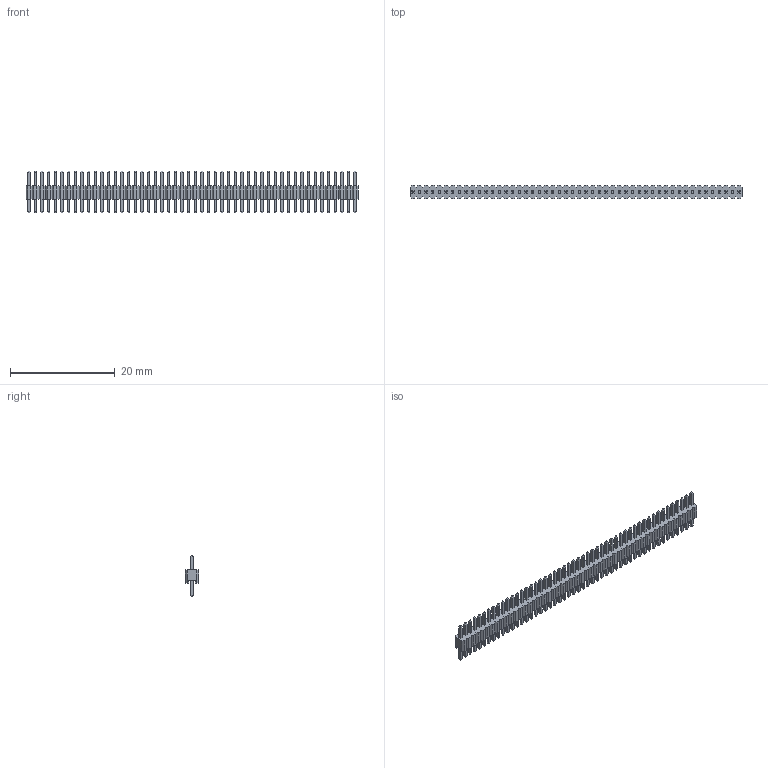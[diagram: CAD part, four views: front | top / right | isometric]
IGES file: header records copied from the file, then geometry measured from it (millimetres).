
Start section: SolidWorks IGES file using analytic representation for surfaces
Global section: file name: D:\RD03\QC-3DS\未歸檔資料\2212-1X50G00SB\2212-1X50G00SB.IGS; native system: SolidWorks 2011; preprocessor: SolidWorks 2011; author: rd03; date: 150408.082501; units: millimetre
Bounding box: 63.3 x 2.5 x 7.9 mm (x, y, z)
Surface area: 1635.9 mm2 (no closed solid volume)
Topology: 0 solids, 0 shells, 1410 faces, 6648 edges, 6648 vertices
Faces by surface type: bspline 1410
